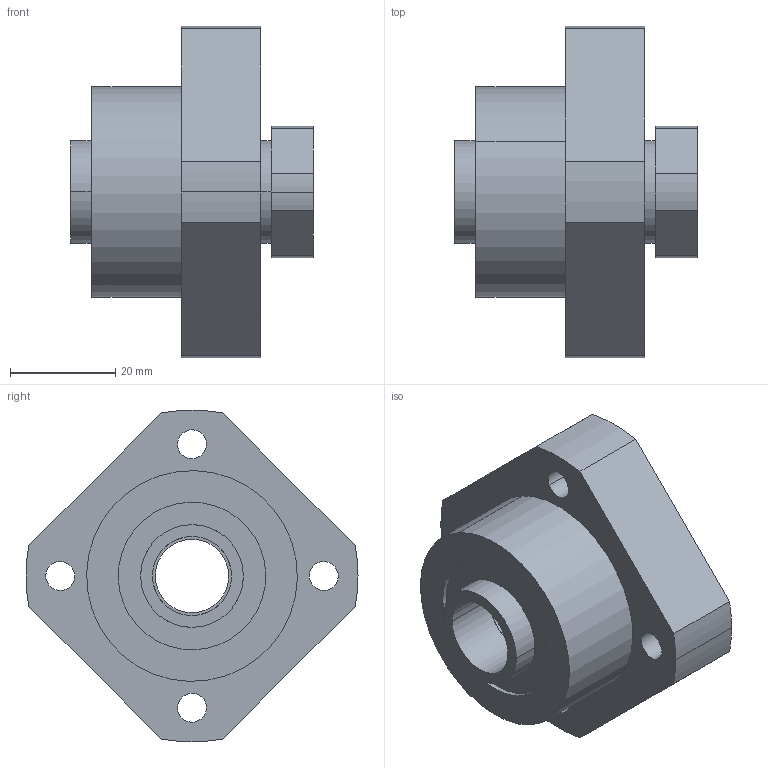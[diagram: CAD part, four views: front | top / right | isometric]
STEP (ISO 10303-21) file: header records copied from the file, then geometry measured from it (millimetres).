
FILE_DESCRIPTION(('CATIA V5 STEP Exchange'),'2;1');
FILE_NAME('D:\서포트 완성도면\FK\FK15.stp','2014-02-20T10:47:46+00:00',('none'),('none'),'CATIA Version 5 Release 18 GA (IN-10)','CATIA V5 STEP AP203','none');
FILE_SCHEMA(('CONFIG_CONTROL_DESIGN'));
Length unit declared in the file: millimetre
Products named in the file (1): FK15
Assembly tree (4 placements, depth 2):
  FK15
    #56
    #1353  x2
    #1540
Bounding box: 46 x 63 x 62.88 mm (x, y, z)
Volume: 53726.2 mm3; surface area: 16949.4 mm2
Topology: 4 solids, 4 shells, 75 faces, 174 edges, 116 vertices
Faces by surface type: cylinder 50, plane 25
Entity records: 1937 total; most frequent: ORIENTED_EDGE 324, CARTESIAN_POINT 318, DIRECTION 258, EDGE_CURVE 162, AXIS2_PLACEMENT_3D 140, VERTEX_POINT 108, CIRCLE 92, EDGE_LOOP 92
